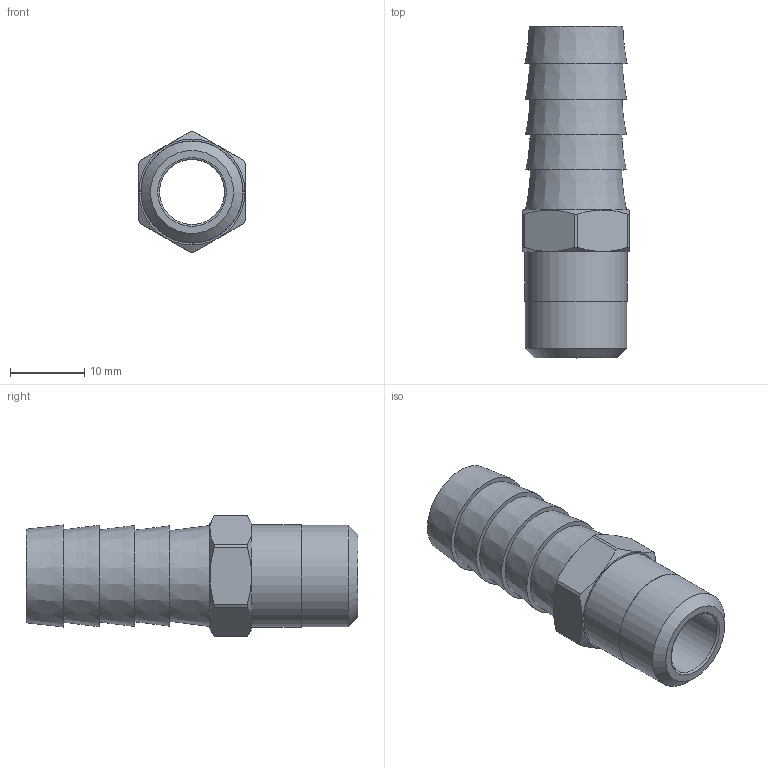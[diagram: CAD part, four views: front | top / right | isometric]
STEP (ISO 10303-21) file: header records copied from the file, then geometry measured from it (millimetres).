
FILE_DESCRIPTION(/* description */ (''),/* implementation_level */ '2;1');
FILE_NAME(/* name */ 'C:/Users/drich/Desktop/MB50-4 v1.step',/* time_stamp */ '2020-02-02T14:55:40-06:00',/* author */ (''),/* organization */ (''),/* preprocessor_version */ 'ST-DEVELOPER v18',/* originating_system */ 'Autodesk Translation Framework v8.12.0.6',/* authorisation */ '');
FILE_SCHEMA (('AUTOMOTIVE_DESIGN { 1 0 10303 214 3 1 1 }'));
Length unit declared in the file: inch
Products named in the file (2): MB50-4; 50 BARB ONLY
Assembly tree (1 placements, depth 2):
  MB50-4
    50 BARB ONLY
Bounding box: 14.27 x 44.58 x 16.26 mm (x, y, z)
Volume: 3084 mm3; surface area: 3627.6 mm2
Topology: 2 solids, 2 shells, 36 faces, 95 edges, 68 vertices
Faces by surface type: plane 15, cone 10, cylinder 10, torus 1
Full cylindrical faces by diameter (mm): 8.712 x1, 10.312 x1, 13.691 x1, 13.741 x1
Entity records: 1227 total; most frequent: CARTESIAN_POINT 226, DIRECTION 218, ORIENTED_EDGE 190, AXIS2_PLACEMENT_3D 96, EDGE_CURVE 95, VERTEX_POINT 68, CIRCLE 57, EDGE_LOOP 45
